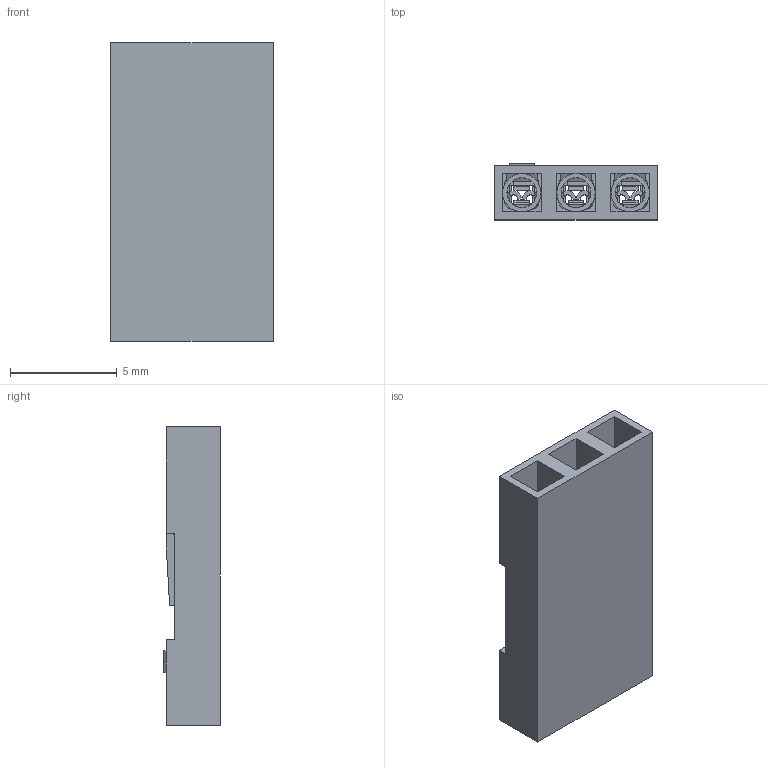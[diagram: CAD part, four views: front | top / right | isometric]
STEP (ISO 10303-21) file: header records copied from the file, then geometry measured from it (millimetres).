
FILE_DESCRIPTION(('STEP AP214'), '1');
FILE_NAME('BLS', '', ('UNSPECIFIED'), ('UNSPECIFIED'), 'ASCON STEP Converter 1.6', 'ASCON Math Kernel', '');
FILE_SCHEMA(('AUTOMOTIVE_DESIGN { 1 0 10303 214 3 1 1}'));
Length unit declared in the file: millimetre
Products named in the file (1): BLS
Bounding box: 7.62 x 2.64 x 14 mm (x, y, z)
Volume: 156.3 mm3; surface area: 888.7 mm2
Topology: 4 solids, 4 shells, 398 faces, 1119 edges, 703 vertices
Faces by surface type: plane 287, cylinder 81, bspline 30
Full cylindrical faces by diameter (mm): 1.4 x3, 1.8 x3
Entity records: 16842 total; most frequent: CARTESIAN_POINT 3253, ORIENTED_EDGE 2226, DIRECTION 2058, EDGE_CURVE 1113, LINE 906, VECTOR 906, VERTEX_POINT 703, AXIS2_PLACEMENT_3D 576
